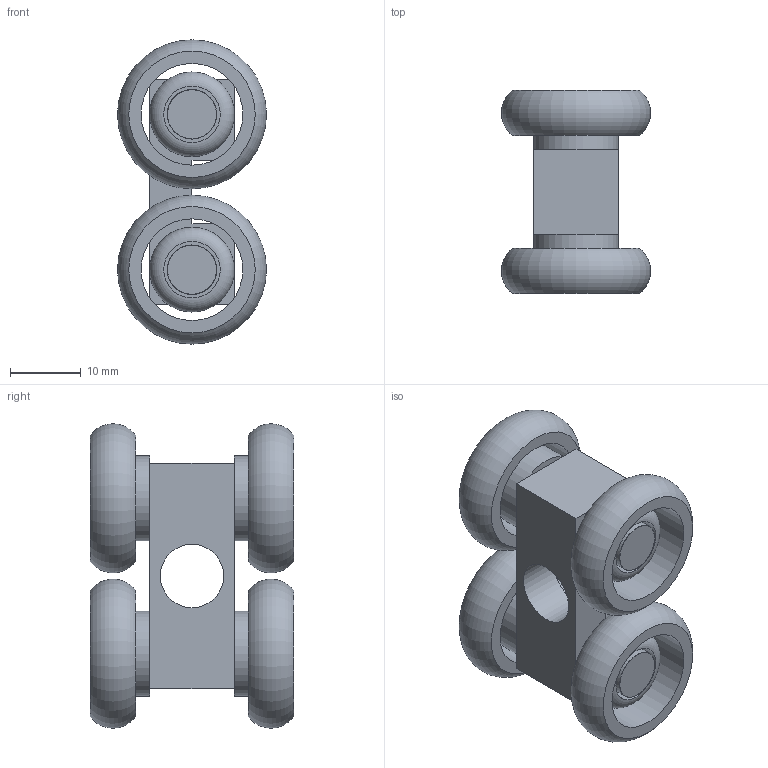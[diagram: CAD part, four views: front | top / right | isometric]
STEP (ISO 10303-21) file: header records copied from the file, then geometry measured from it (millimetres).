
FILE_DESCRIPTION((''),'2;1');
FILE_NAME('X:\藍啟維\資料庫\Inventor資料庫\其他\共用配件\戰車輪.stp','2016-10-28T15:56:07',('Owner'),(''),'Autodesk Inventor 2012','Autodesk Inventor 2012','');
FILE_SCHEMA(('AUTOMOTIVE_DESIGN { 1 0 10303 214 1 1 1 1 }'));
Length unit declared in the file: millimetre
Products named in the file (5): 戰車輪; 零件5; 輪子; 零件7; 零件8
Assembly tree (11 placements, depth 2):
  戰車輪
    零件5
    輪子  x4
    零件7  x2
    零件8  x4
Bounding box: 21.1 x 28.8 x 43.1 mm (x, y, z)
Volume: 9602.3 mm3; surface area: 9190.2 mm2
Topology: 11 solids, 11 shells, 57 faces, 109 edges, 70 vertices
Faces by surface type: plane 24, cylinder 21, torus 10, cone 2
Full cylindrical faces by diameter (mm): 5 x2, 7 x4, 8 x4, 9 x1, 12 x4, 14.4 x4
Entity records: 904 total; most frequent: DIRECTION 156, CARTESIAN_POINT 125, ORIENTED_EDGE 90, AXIS2_PLACEMENT_3D 68, EDGE_LOOP 48, EDGE_CURVE 45, VERTEX_POINT 37, FACE_OUTER_BOUND 27
